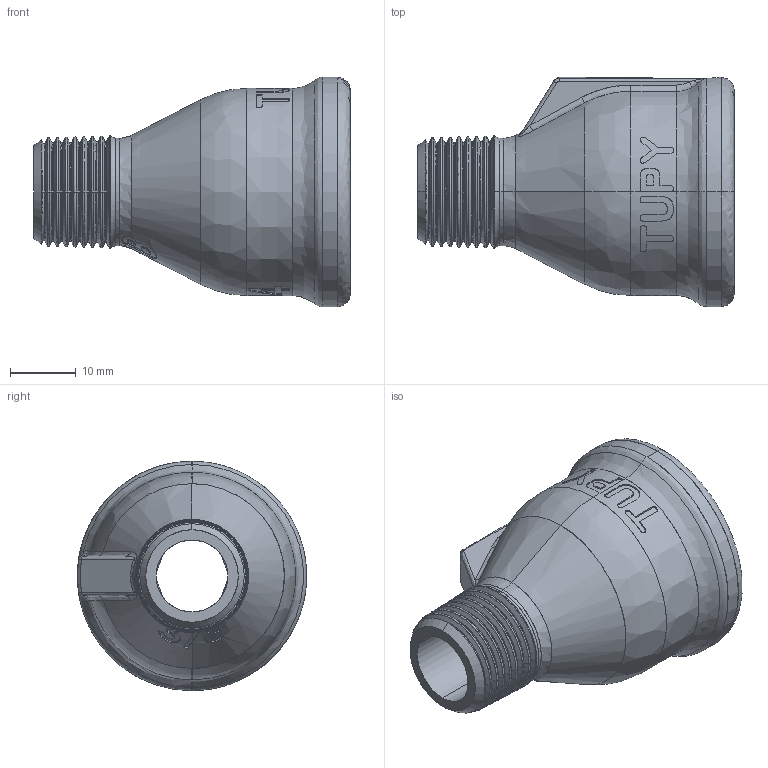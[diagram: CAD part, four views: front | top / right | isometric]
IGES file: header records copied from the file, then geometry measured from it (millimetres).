
Start section: SolidWorks IGES file using analytic representation for surfaces
Global section: file name: C:\Users\Joel Rosa\Desktop\Tubulação\12-35-OK\12-35-028.IGS; native system: SolidWorks 2011; preprocessor: SolidWorks 2011; author: Joel Rosa; date: 121209.031009; units: millimetre
Bounding box: 48 x 34.8 x 34.8 mm (x, y, z)
Surface area: 8700.8 mm2 (no closed solid volume)
Topology: 0 solids, 0 shells, 380 faces, 4179 edges, 4178 vertices
Faces by surface type: bspline 270, revolution 110
